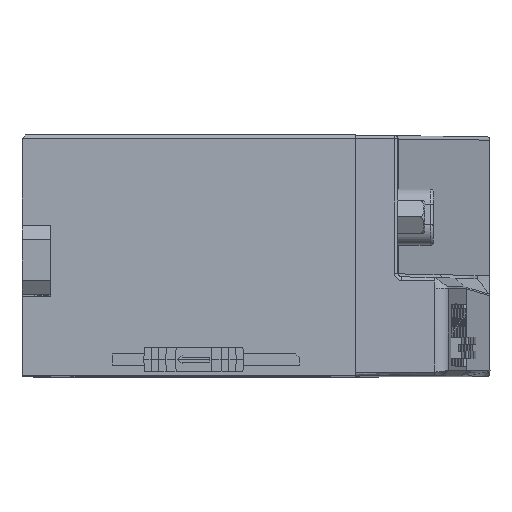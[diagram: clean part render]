
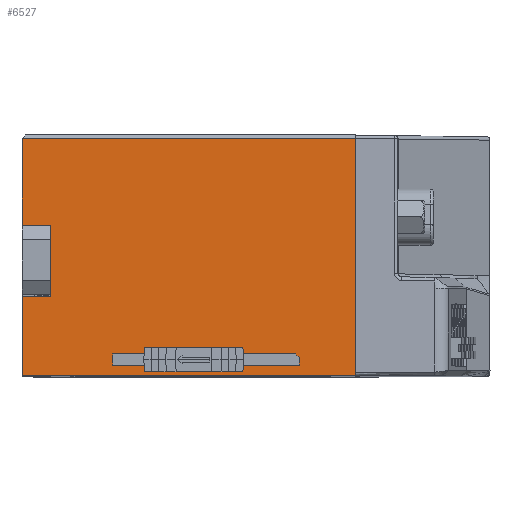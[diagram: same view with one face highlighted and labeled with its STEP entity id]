
A CAD part, top view. The second image highlights one B-rep face of the part: STEP entity #6527.
In plain terms, the highlighted planar face has unit normal (0, 0, 1).
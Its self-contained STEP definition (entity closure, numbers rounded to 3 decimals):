
#6527=ADVANCED_FACE('',(#11584,#11585),#9605,.T.);
#9605=PLANE('',#57890);
#11584=FACE_BOUND('',#11929,.T.);
#11585=FACE_BOUND('',#11930,.T.);
#11929=EDGE_LOOP('',(#15216,#15217,#15218,#15219,#15220,#15221,#15222,#15223,
#15224));
#11930=EDGE_LOOP('',(#15225,#15226,#15227,#15228,#15229,#15230,#15231));
#15216=ORIENTED_EDGE('',*,*,#37429,.T.);
#15217=ORIENTED_EDGE('',*,*,#37430,.T.);
#15218=ORIENTED_EDGE('',*,*,#37431,.F.);
#15219=ORIENTED_EDGE('',*,*,#37432,.T.);
#15220=ORIENTED_EDGE('',*,*,#37433,.T.);
#15221=ORIENTED_EDGE('',*,*,#37434,.F.);
#15222=ORIENTED_EDGE('',*,*,#37435,.T.);
#15223=ORIENTED_EDGE('',*,*,#37436,.T.);
#15224=ORIENTED_EDGE('',*,*,#37437,.F.);
#15225=ORIENTED_EDGE('',*,*,#37438,.T.);
#15226=ORIENTED_EDGE('',*,*,#37439,.F.);
#15227=ORIENTED_EDGE('',*,*,#37440,.F.);
#15228=ORIENTED_EDGE('',*,*,#37441,.T.);
#15229=ORIENTED_EDGE('',*,*,#37442,.T.);
#15230=ORIENTED_EDGE('',*,*,#37443,.T.);
#15231=ORIENTED_EDGE('',*,*,#37444,.T.);
#31940=VERTEX_POINT('',#77084);
#31941=VERTEX_POINT('',#77085);
#31942=VERTEX_POINT('',#77087);
#31943=VERTEX_POINT('',#77089);
#31944=VERTEX_POINT('',#77091);
#31945=VERTEX_POINT('',#77093);
#31946=VERTEX_POINT('',#77095);
#31947=VERTEX_POINT('',#77097);
#31948=VERTEX_POINT('',#77099);
#31949=VERTEX_POINT('',#77102);
#31950=VERTEX_POINT('',#77103);
#31951=VERTEX_POINT('',#77105);
#31952=VERTEX_POINT('',#77107);
#31953=VERTEX_POINT('',#77109);
#31954=VERTEX_POINT('',#77111);
#31955=VERTEX_POINT('',#77113);
#37429=EDGE_CURVE('',#31940,#31941,#45791,.T.);
#37430=EDGE_CURVE('',#31941,#31942,#45792,.T.);
#37431=EDGE_CURVE('',#31943,#31942,#45793,.T.);
#37432=EDGE_CURVE('',#31943,#31944,#45794,.T.);
#37433=EDGE_CURVE('',#31944,#31945,#45795,.T.);
#37434=EDGE_CURVE('',#31946,#31945,#45796,.T.);
#37435=EDGE_CURVE('',#31946,#31947,#45797,.T.);
#37436=EDGE_CURVE('',#31947,#31948,#45798,.T.);
#37437=EDGE_CURVE('',#31940,#31948,#45799,.T.);
#37438=EDGE_CURVE('',#31949,#31950,#45800,.T.);
#37439=EDGE_CURVE('',#31951,#31950,#45801,.T.);
#37440=EDGE_CURVE('',#31952,#31951,#45802,.T.);
#37441=EDGE_CURVE('',#31952,#31953,#45803,.T.);
#37442=EDGE_CURVE('',#31953,#31954,#45804,.T.);
#37443=EDGE_CURVE('',#31954,#31955,#45805,.T.);
#37444=EDGE_CURVE('',#31955,#31949,#45806,.T.);
#45791=LINE('',#77083,#51836);
#45792=LINE('',#77086,#51837);
#45793=LINE('',#77088,#51838);
#45794=LINE('',#77090,#51839);
#45795=LINE('',#77092,#51840);
#45796=LINE('',#77094,#51841);
#45797=LINE('',#77096,#51842);
#45798=LINE('',#77098,#51843);
#45799=LINE('',#77100,#51844);
#45800=LINE('',#77101,#51845);
#45801=LINE('',#77104,#51846);
#45802=LINE('',#77106,#51847);
#45803=LINE('',#77108,#51848);
#45804=LINE('',#77110,#51849);
#45805=LINE('',#77112,#51850);
#45806=LINE('',#77114,#51851);
#51836=VECTOR('',#62271,1.);
#51837=VECTOR('',#62272,1.);
#51838=VECTOR('',#62273,1.);
#51839=VECTOR('',#62274,1.);
#51840=VECTOR('',#62275,1.);
#51841=VECTOR('',#62276,1.);
#51842=VECTOR('',#62277,1.);
#51843=VECTOR('',#62278,1.);
#51844=VECTOR('',#62279,1.);
#51845=VECTOR('',#62280,1.);
#51846=VECTOR('',#62281,1.);
#51847=VECTOR('',#62282,1.);
#51848=VECTOR('',#62283,1.);
#51849=VECTOR('',#62284,1.);
#51850=VECTOR('',#62285,1.);
#51851=VECTOR('',#62286,1.);
#57890=AXIS2_PLACEMENT_3D('',#77115,#62287,#62288);
#62271=DIRECTION('',(0.,1.,0.));
#62272=DIRECTION('',(-1.,0.,0.));
#62273=DIRECTION('',(0.017,1.,0.));
#62274=DIRECTION('',(0.,-1.,0.));
#62275=DIRECTION('',(1.,0.,0.));
#62276=DIRECTION('',(0.,1.,0.));
#62277=DIRECTION('',(-1.,0.,0.));
#62278=DIRECTION('',(0.,-1.,0.));
#62279=DIRECTION('',(-1.,0.,0.));
#62280=DIRECTION('',(-1.,0.,0.));
#62281=DIRECTION('',(0.017,-1.,0.));
#62282=DIRECTION('',(-0.017,-1.,0.));
#62283=DIRECTION('',(1.,0.,0.));
#62284=DIRECTION('',(0.707,-0.707,0.));
#62285=DIRECTION('',(0.017,-1.,0.));
#62286=DIRECTION('',(-0.017,-1.,0.));
#62287=DIRECTION('',(0.,0.,1.));
#62288=DIRECTION('',(-1.,0.,0.));
#77083=CARTESIAN_POINT('',(-247.544,-88.239,278.694));
#77084=CARTESIAN_POINT('',(-247.544,-88.239,278.694));
#77085=CARTESIAN_POINT('',(-247.544,-54.739,278.694));
#77086=CARTESIAN_POINT('',(-294.544,-54.739,278.694));
#77087=CARTESIAN_POINT('',(-294.526,-54.739,278.694));
#77088=CARTESIAN_POINT('',(-295.161,-91.134,278.694));
#77089=CARTESIAN_POINT('',(-294.544,-55.739,278.694));
#77090=CARTESIAN_POINT('',(-294.544,-55.739,278.694));
#77091=CARTESIAN_POINT('',(-294.544,-66.989,278.694));
#77092=CARTESIAN_POINT('',(-294.544,-66.989,278.694));
#77093=CARTESIAN_POINT('',(-290.544,-66.989,278.694));
#77094=CARTESIAN_POINT('',(-290.544,-91.625,278.694));
#77095=CARTESIAN_POINT('',(-290.544,-76.989,278.694));
#77096=CARTESIAN_POINT('',(-290.544,-76.989,278.694));
#77097=CARTESIAN_POINT('',(-294.544,-76.989,278.694));
#77098=CARTESIAN_POINT('',(-294.544,-76.989,278.694));
#77099=CARTESIAN_POINT('',(-294.544,-88.239,278.694));
#77100=CARTESIAN_POINT('',(-247.544,-88.239,278.694));
#77101=CARTESIAN_POINT('',(-247.544,-86.739,278.694));
#77102=CARTESIAN_POINT('',(-255.458,-86.739,278.694));
#77103=CARTESIAN_POINT('',(-281.73,-86.739,278.694));
#77104=CARTESIAN_POINT('',(-281.744,-85.939,278.694));
#77105=CARTESIAN_POINT('',(-281.744,-85.939,278.694));
#77106=CARTESIAN_POINT('',(-281.744,-85.939,278.694));
#77107=CARTESIAN_POINT('',(-281.73,-85.139,278.694));
#77108=CARTESIAN_POINT('',(-247.544,-85.139,278.694));
#77109=CARTESIAN_POINT('',(-255.924,-85.139,278.694));
#77110=CARTESIAN_POINT('',(-266.434,-74.63,278.694));
#77111=CARTESIAN_POINT('',(-255.449,-85.614,278.694));
#77112=CARTESIAN_POINT('',(-255.968,-55.886,278.694));
#77113=CARTESIAN_POINT('',(-255.444,-85.939,278.694));
#77114=CARTESIAN_POINT('',(-254.914,-55.61,278.694));
#77115=CARTESIAN_POINT('',(-267.044,-91.625,278.694));
